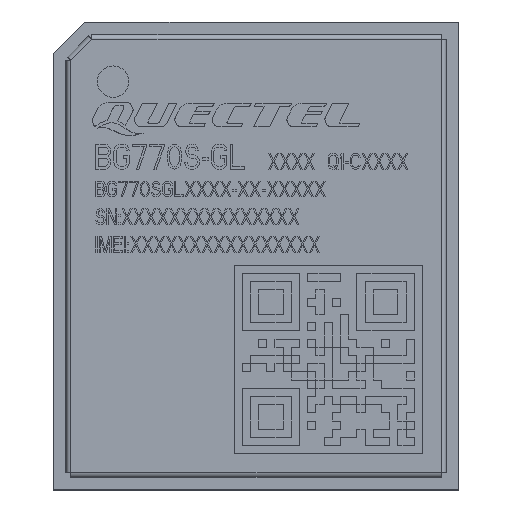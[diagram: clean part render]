
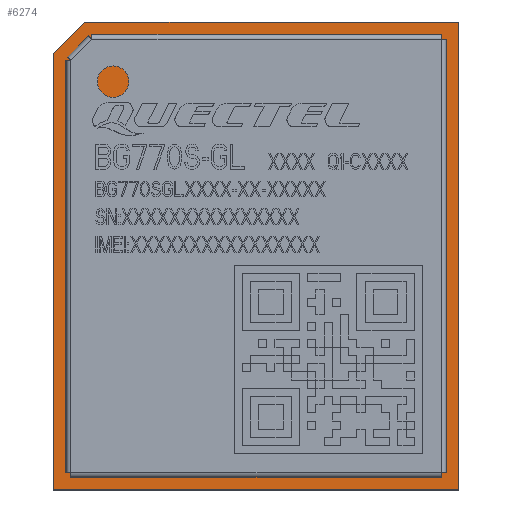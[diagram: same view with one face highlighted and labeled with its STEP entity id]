
A CAD part, top view. The second image highlights one B-rep face of the part: STEP entity #6274.
In plain terms, the highlighted planar face has unit normal (0, 0, 1).
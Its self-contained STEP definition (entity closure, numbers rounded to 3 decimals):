
#1921=DIRECTION('',(0.,-1.,0.));
#1922=VECTOR('',#1921,13.9);
#1923=CARTESIAN_POINT('',(0.,13.9,0.6));
#1924=LINE('',#1923,#1922);
#1928=DIRECTION('',(-0.707,-0.707,0.));
#1929=VECTOR('',#1928,1.414);
#1930=CARTESIAN_POINT('',(1.,14.9,0.6));
#1931=LINE('',#1930,#1929);
#1935=DIRECTION('',(-1.,0.,0.));
#1936=VECTOR('',#1935,11.9);
#1937=CARTESIAN_POINT('',(12.9,14.9,0.6));
#1938=LINE('',#1937,#1936);
#1942=DIRECTION('',(0.,1.,0.));
#1943=VECTOR('',#1942,14.9);
#1944=CARTESIAN_POINT('',(12.9,0.,0.6));
#1945=LINE('',#1944,#1943);
#1949=DIRECTION('',(1.,0.,0.));
#1950=VECTOR('',#1949,12.9);
#1951=CARTESIAN_POINT('',(0.,0.,0.6));
#1952=LINE('',#1951,#1950);
#4828=CARTESIAN_POINT('',(0.,13.9,0.6));
#4829=CARTESIAN_POINT('',(0.,0.,0.6));
#4830=VERTEX_POINT('',#4828);
#4831=VERTEX_POINT('',#4829);
#4832=CARTESIAN_POINT('',(12.9,0.,0.6));
#4833=VERTEX_POINT('',#4832);
#4834=CARTESIAN_POINT('',(12.9,14.9,0.6));
#4835=VERTEX_POINT('',#4834);
#4836=CARTESIAN_POINT('',(1.,14.9,0.6));
#4837=VERTEX_POINT('',#4836);
#6262=CARTESIAN_POINT('',(0.,0.,0.6));
#6263=DIRECTION('',(0.,0.,1.));
#6264=DIRECTION('',(1.,0.,0.));
#6265=AXIS2_PLACEMENT_3D('',#6262,#6263,#6264);
#6266=PLANE('',#6265);
#6267=ORIENTED_EDGE('',*,*,#6200,.F.);
#6268=ORIENTED_EDGE('',*,*,#6215,.F.);
#6269=ORIENTED_EDGE('',*,*,#6229,.F.);
#6270=ORIENTED_EDGE('',*,*,#6243,.F.);
#6271=ORIENTED_EDGE('',*,*,#6256,.F.);
#6272=EDGE_LOOP('',(#6267,#6268,#6269,#6270,#6271));
#6273=FACE_OUTER_BOUND('',#6272,.F.);
#6274=ADVANCED_FACE('',(#6273),#6266,.T.);
#6200=EDGE_CURVE('',#4830,#4831,#1924,.T.);
#6215=EDGE_CURVE('',#4837,#4830,#1931,.T.);
#6229=EDGE_CURVE('',#4835,#4837,#1938,.T.);
#6243=EDGE_CURVE('',#4833,#4835,#1945,.T.);
#6256=EDGE_CURVE('',#4831,#4833,#1952,.T.);
